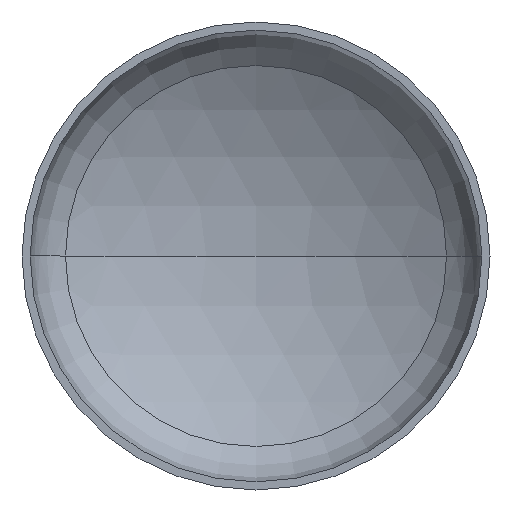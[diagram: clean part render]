
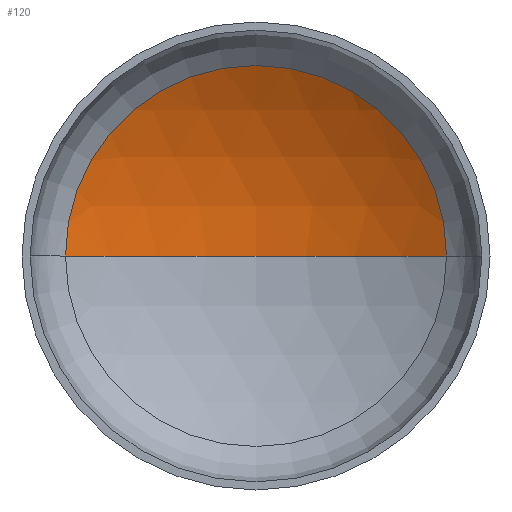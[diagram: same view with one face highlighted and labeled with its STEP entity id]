
A CAD part, front view. The second image highlights one B-rep face of the part: STEP entity #120.
In plain terms, the highlighted spherical face has radius 2240 mm.
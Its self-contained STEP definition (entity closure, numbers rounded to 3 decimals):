
#12 = AXIS2_PLACEMENT_3D ( 'NONE', #379, #241, #159 ) ;
#13 = ORIENTED_EDGE ( 'NONE', *, *, #330, .T. ) ;
#17 = AXIS2_PLACEMENT_3D ( 'NONE', #82, #85, #114 ) ;
#21 = CIRCLE ( 'NONE', #17, 1139.801 ) ;
#32 = EDGE_LOOP ( 'NONE', ( #107, #52, #13 ) ) ;
#39 = AXIS2_PLACEMENT_3D ( 'NONE', #152, #178, #293 ) ;
#52 = ORIENTED_EDGE ( 'NONE', *, *, #340, .T. ) ;
#74 = FACE_OUTER_BOUND ( 'NONE', #32, .T. ) ;
#82 = CARTESIAN_POINT ( 'NONE',  ( 0., 520.17, 0. ) ) ;
#85 = DIRECTION ( 'NONE',  ( 0., -1., 0. ) ) ;
#94 = DIRECTION ( 'NONE',  ( 0., 0., 1. ) ) ;
#107 = ORIENTED_EDGE ( 'NONE', *, *, #375, .F. ) ;
#114 = DIRECTION ( 'NONE',  ( 1., 0., 0. ) ) ;
#120 = ADVANCED_FACE ( 'NONE', ( #74 ), #177, .F. ) ;
#152 = CARTESIAN_POINT ( 'NONE',  ( 0., -1408.159, 0. ) ) ;
#159 = DIRECTION ( 'NONE',  ( -1., 0., 0. ) ) ;
#168 = VERTEX_POINT ( 'NONE', #174 ) ;
#174 = CARTESIAN_POINT ( 'NONE',  ( -1139.801, 520.17, 0. ) ) ;
#177 = SPHERICAL_SURFACE ( 'NONE', #39, 2240. ) ;
#178 = DIRECTION ( 'NONE',  ( 0., 0., -1. ) ) ;
#194 = CARTESIAN_POINT ( 'NONE',  ( 0., 831.841, 0. ) ) ;
#228 = VERTEX_POINT ( 'NONE', #194 ) ;
#241 = DIRECTION ( 'NONE',  ( 0., 0., -1. ) ) ;
#245 = DIRECTION ( 'NONE',  ( 1., 0., 0. ) ) ;
#255 = CARTESIAN_POINT ( 'NONE',  ( 1139.801, 520.17, 0. ) ) ;
#287 = CARTESIAN_POINT ( 'NONE',  ( 0., -1408.159, 0. ) ) ;
#288 = CIRCLE ( 'NONE', #12, 2240. ) ;
#291 = VERTEX_POINT ( 'NONE', #255 ) ;
#293 = DIRECTION ( 'NONE',  ( -1., 0., 0. ) ) ;
#330 = EDGE_CURVE ( 'NONE', #291, #168, #21, .T. ) ;
#340 = EDGE_CURVE ( 'NONE', #228, #291, #288, .T. ) ;
#375 = EDGE_CURVE ( 'NONE', #228, #168, #397, .T. ) ;
#379 = CARTESIAN_POINT ( 'NONE',  ( 0., -1408.159, 0. ) ) ;
#389 = AXIS2_PLACEMENT_3D ( 'NONE', #287, #94, #245 ) ;
#397 = CIRCLE ( 'NONE', #389, 2240. ) ;
